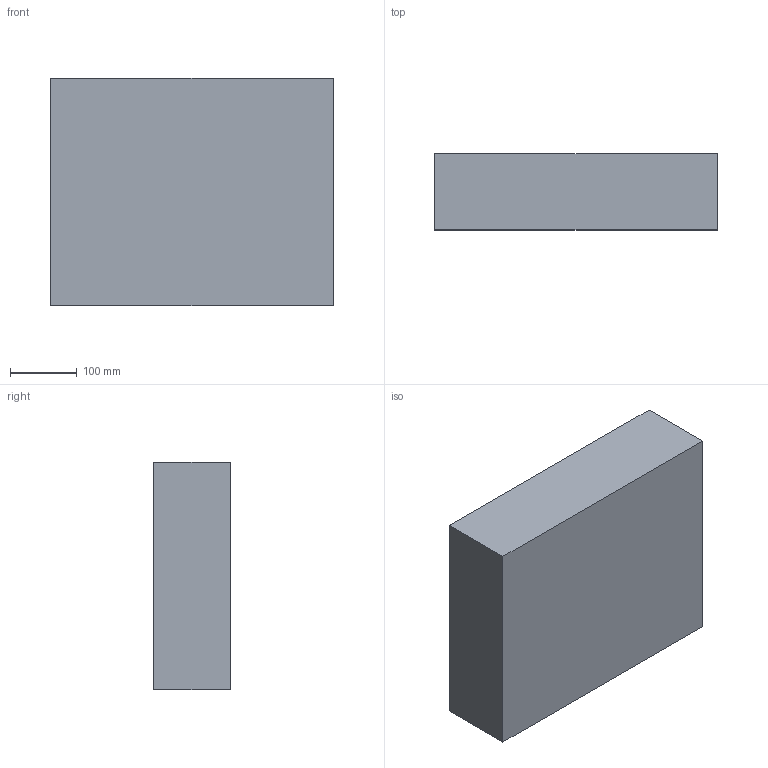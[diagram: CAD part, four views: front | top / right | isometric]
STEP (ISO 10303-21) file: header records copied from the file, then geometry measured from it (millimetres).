
FILE_DESCRIPTION (( 'STEP AP203' ), '1' );
FILE_NAME ('920_Bottom.STEP', '2012-01-23T22:18:23', ( 'Ben laptop' ), ( 'Microsoft' ), 'SwSTEP 2.0', 'SolidWorks 2011', '' );
FILE_SCHEMA (( 'CONFIG_CONTROL_DESIGN' ));
Length unit declared in the file: inch
Products named in the file (1): 920_Bottom
Bounding box: 422.72 x 113.79 x 339.83 mm (x, y, z)
Volume: 5881226.1 mm3; surface area: 582882.1 mm2
Topology: 1 solids, 1 shells, 488 faces, 1163 edges, 688 vertices
Faces by surface type: bspline 250, cylinder 170, plane 64, cone 4
Entity records: 37114 total; most frequent: CARTESIAN_POINT 27683, ORIENTED_EDGE 2302, DIRECTION 1484, EDGE_CURVE 1151, VERTEX_POINT 688, AXIS2_PLACEMENT_3D 612, EDGE_LOOP 511, FACE_OUTER_BOUND 488
